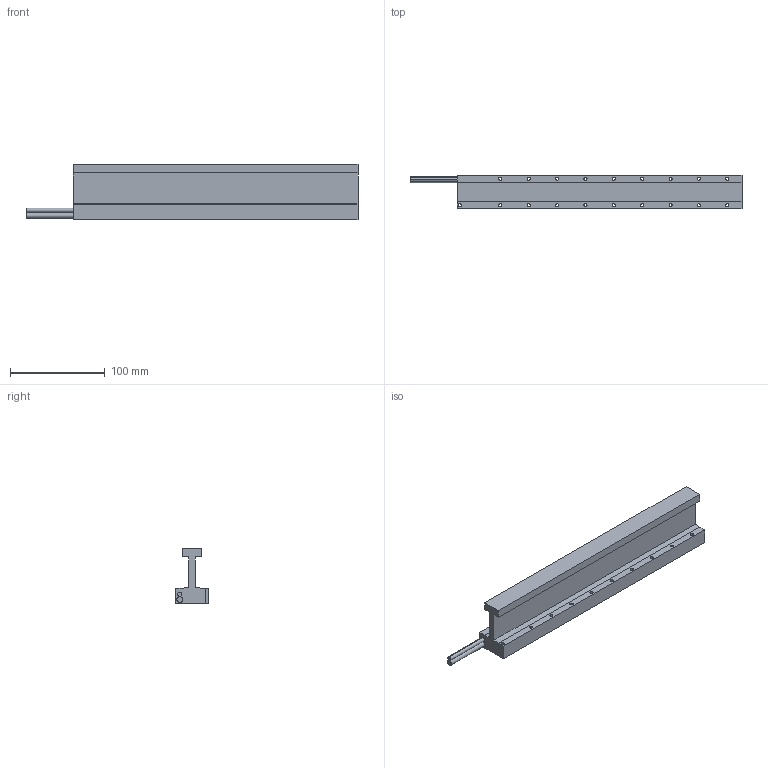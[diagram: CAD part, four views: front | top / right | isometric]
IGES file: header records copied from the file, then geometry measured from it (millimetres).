
Start section: SolidWorks IGES file using analytic representation for surfaces
Global section: file name: C:\Users\admin\Desktop\LM无铁芯U型电机 - 副本\FU300模型图\FU300-301.IGS; native system: SolidWorks 2016; preprocessor: SolidWorks 2016; author: admin; date: 201103.134036; units: millimetre
Bounding box: 351 x 35 x 58.7 mm (x, y, z)
Surface area: 70354.6 mm2 (no closed solid volume)
Topology: 0 solids, 0 shells, 60 faces, 1596 edges, 1596 vertices
Faces by surface type: revolution 42, bspline 18
